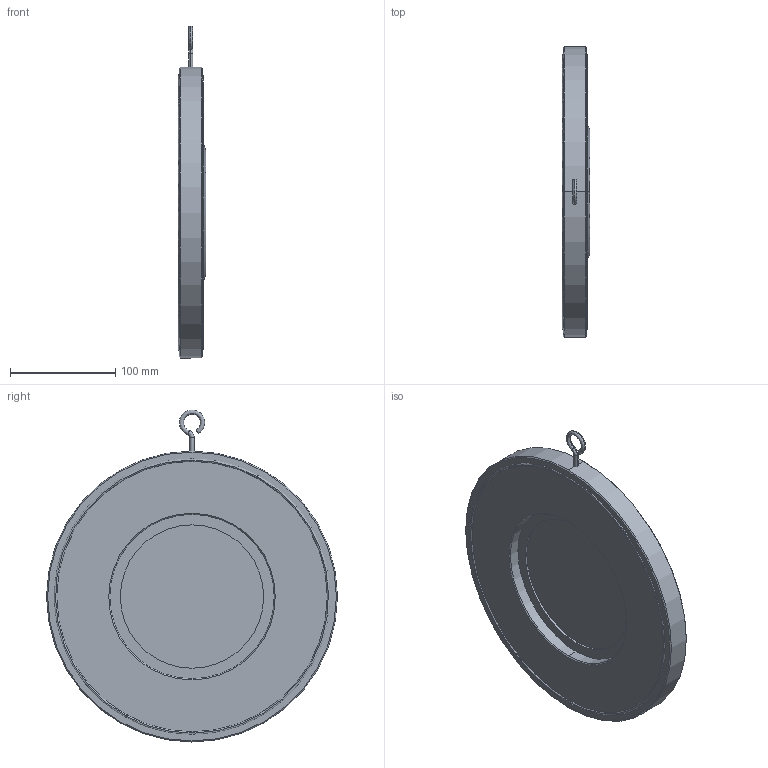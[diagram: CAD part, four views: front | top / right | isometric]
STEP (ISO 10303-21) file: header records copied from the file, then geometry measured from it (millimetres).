
FILE_DESCRIPTION (( 'STEP AP203' ), '1' );
FILE_NAME ('0.STEP', '2017-04-04T01:17:17', ( 'User' ), ( 'shendu' ), 'SwSTEP 2.0', 'SolidWorks 2015', '' );
FILE_SCHEMA (( 'CONFIG_CONTROL_DESIGN' ));
Length unit declared in the file: millimetre
Products named in the file (1): 0
Bounding box: 26.5 x 276 x 315 mm (x, y, z)
Volume: 1035869.5 mm3; surface area: 200538.2 mm2
Topology: 11 solids, 11 shells, 181 faces, 450 edges, 275 vertices
Faces by surface type: plane 71, bspline 41, cylinder 39, cone 30
Entity records: 9911 total; most frequent: CARTESIAN_POINT 5787, ORIENTED_EDGE 862, DIRECTION 813, EDGE_CURVE 431, AXIS2_PLACEMENT_3D 309, VERTEX_POINT 275, EDGE_LOOP 196, LINE 195
